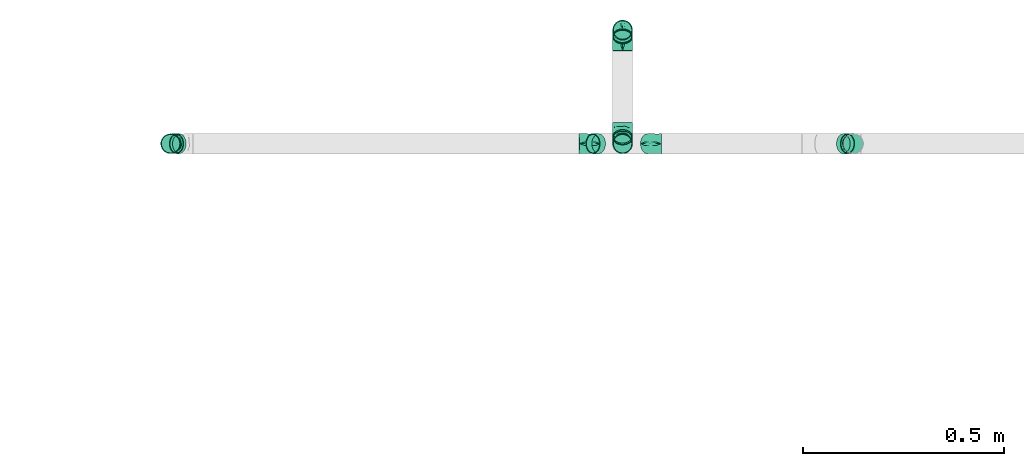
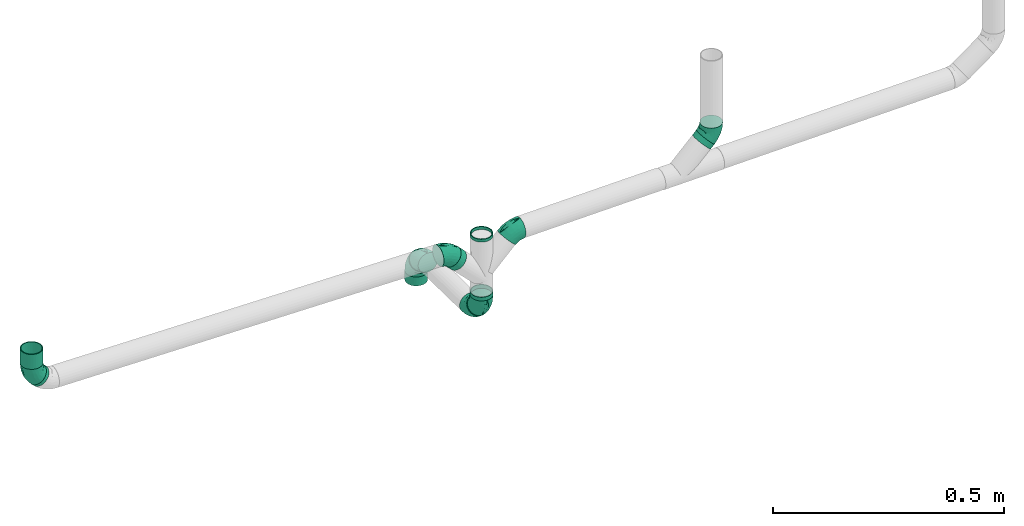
# One storey, part 6 of 13: 9 flow segments, 8 flow fittings.
"""IFC2X3 building model written with IfcOpenShell, lengths in millimetres."""

from ifc_helpers import new_model, entity, si_unit, converted_unit, derived_unit, direction, frame, origin_with_axes, origin_2d_with_axis, place, context, subcontext, project, spatial, hollow_circle, extrude, open_shell, surface_model, source, transform, mapped, type_object, element, save


model = new_model("IFC2X3")

# Units and contexts
model_context = context("Model", 3, precision=0.01, world=frame((0.0, 4.29681676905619e-09, 0.0)), true_north=direction((4.01073788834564e-13, 1.0)))
plan_context = context("Plan", 3, precision=0.01, world=frame((0.0, 4.29681676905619e-09, 0.0)), true_north=direction((4.01073788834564e-13, 1.0)))
body_context = subcontext(model_context, "Body", "Model", "MODEL_VIEW")
ifc_project = project(units=[converted_unit("PLANEANGLEUNIT", "DEGREE", entity("IfcPositiveLengthMeasure", 0.0174532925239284), si_unit("PLANEANGLEUNIT", "RADIAN"), dimensions=[0, 0, 0, 0, 0, 0, 0]), si_unit("AREAUNIT", "SQUARE_METRE"), si_unit("LENGTHUNIT", "METRE", prefix="MILLI"), si_unit("MASSUNIT", "GRAM", prefix="KILO"), si_unit("POWERUNIT", "WATT"), si_unit("PRESSUREUNIT", "PASCAL", prefix="KILO"), si_unit("FORCEUNIT", "NEWTON", prefix="KILO"), si_unit("ELECTRICVOLTAGEUNIT", "VOLT"), si_unit("ELECTRICCURRENTUNIT", "AMPERE"), si_unit("THERMODYNAMICTEMPERATUREUNIT", "DEGREE_CELSIUS"), si_unit("TIMEUNIT", "SECOND"), si_unit("VOLUMEUNIT", "CUBIC_METRE"), derived_unit("LINEARVELOCITYUNIT", [(si_unit("LENGTHUNIT", "METRE"), 1), (si_unit("TIMEUNIT", "SECOND"), -1)]), derived_unit("VOLUMETRICFLOWRATEUNIT", [(si_unit("VOLUMEUNIT", "CUBIC_METRE"), 1), (si_unit("TIMEUNIT", "SECOND"), -1)]), derived_unit("THERMALTRANSMITTANCEUNIT", [(si_unit("POWERUNIT", "WATT"), 1), (si_unit("THERMODYNAMICTEMPERATUREUNIT", "KELVIN"), -1), (si_unit("AREAUNIT", "SQUARE_METRE"), -1)]), derived_unit("SOUNDPRESSUREUNIT", [(si_unit("PRESSUREUNIT", "PASCAL"), 1)])], contexts=[model_context, plan_context])

# Site, building, storey
site_placement = place(None, frame((0.0, -4.29681676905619e-09, 0.0), z_axis=(0.0, 0.0, 1.0), x_axis=(1.0, 0.0, 0.0)))
site = spatial("IfcSite", under=ifc_project, at=site_placement, Name="ENGM", CompositionType="ELEMENT")
building_placement = place(site_placement, frame((0.0, 4.29681676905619e-09, 0.0), z_axis=(0.0, 0.0, 1.0), x_axis=(1.0, 0.0, 0.0)))
building = spatial("IfcBuilding", under=site, at=building_placement, Name="TI", CompositionType="ELEMENT")
storey_placement = place(building_placement, frame((0.0, 0.0, 210900.0), z_axis=(0.0, 0.0, 1.0), x_axis=(1.0, 0.0, 0.0)))
storey = spatial("IfcBuildingStorey", under=building, at=storey_placement, Name="Nivå F", CompositionType="ELEMENT", Elevation=210900.0)

# Flow fittings
pipe_fitting_type = type_object("IfcPipeFittingType", Name="magi_pipe_elbow_short_001", PredefinedType="BEND")
shared_shape_1 = source(origin_with_axes(), body_context, "Body", "SurfaceModel", [
    surface_model("IfcShellBasedSurfaceModel", [(-20.22424, 6.47048, -24.14815), (-20.22424, 0.0, -25.0), (-20.22424, 24.14815, -6.47048), (-20.22424, 12.5, -21.65064), (-20.22424, 21.65064, -12.5), (-20.22424, 17.67767, -17.67767), (-20.22424, -17.67767, -17.67767), (-20.22424, -12.5, -21.65064), (-20.22424, -6.47048, -24.14815), (-20.22424, -21.65064, -12.5), (-20.22424, -24.14815, -6.47048), (-20.22424, -12.5, 21.65064), (-20.22424, -25.0, 0.0), (-20.22424, -24.14815, 6.47048), (-20.22424, 24.14815, 6.47048), (-20.22424, 25.0, 0.0), (-20.22424, 6.47048, 24.14815), (-20.22424, 21.65064, 12.5), (-20.22424, 17.67767, 17.67767), (-20.22424, 12.5, 21.65064), (-20.22424, -21.65064, 12.5), (-20.22424, -17.67767, 17.67767), (-20.22424, -6.47048, 24.14815), (-20.22424, 0.0, 25.0), (14.53702, 14.0604, -25.0), (10.03858, 18.71132, -24.14815), (5.84671, 23.0453, -21.65064), (-0.51505, 29.6227, -12.5), (29.58908, -1.50191, -12.5), (2.24706, 26.76697, -17.67767), (31.32542, -3.2971, 6.47048), (19.03546, 9.40947, -24.14815), (26.82698, 1.35383, -17.67767), (23.22733, 5.0755, -21.65064), (31.91765, -3.90941, 0.0), (31.32542, -3.2971, -6.47048), (-2.25138, 31.41789, -6.47048), (5.84671, 23.0453, 21.65064), (-2.84361, 32.0302, 0.0), (-2.25138, 31.41789, 6.47048), (-0.51505, 29.6227, 12.5), (10.03858, 18.71132, 24.14815), (2.24706, 26.76697, 17.67767), (29.58908, -1.50191, 12.5), (23.22733, 5.0755, 21.65064), (26.82698, 1.35383, 17.67767), (19.03546, 9.40947, 24.14815), (14.53702, 14.0604, 25.0), (-9.69847, -9.19065, 22.86046), (-5.23761, -14.15187, 19.3094), (2.56471, -6.34069, 22.55877), (-7.62941, -19.11779, 14.65253), (18.77512, -8.43755, 14.65253), (-7.11247, -2.41653, 24.67279), (-9.19675, 10.40135, 23.36423), (-2.27927, 5.635, 24.90797), (-12.2662, 3.44991, 24.84556), (4.41807, 11.57749, 24.61789), (-4.22873, -21.66922, 8.71306), (6.2942, -15.56104, 13.98696), (13.36075, 0.13646, 22.86046), (-10.0272, 24.79005, 10.24171), (-10.55878, 20.97013, 15.76419), (-6.90158, 17.06265, 20.38655), (2.53121, -21.02858, 4.53817), (12.5538, -16.99605, 4.53817), (7.28086, -18.00033, 8.92555), (-6.16279, -22.26385, 0.0), (-6.66707, -23.33816, 4.55945), (20.74358, -12.3269, 4.53328), (18.10457, -12.63575, 8.71306), (-9.87338, 26.63546, 5.23705), (6.79242, 3.20779, 24.67279), (13.60349, -6.53093, 19.3094), (7.89866, -19.52771, 0.0), (0.91234, 14.87569, 23.32132), (19.90816, -11.71856, 0.0), (-10.84994, 26.8241, 0.0), (4.12544, -10.19925, 20.04685), (-7.11247, -2.41653, -24.67279), (12.80019, -16.87494, -4.53817), (2.79251, -20.94434, -4.53817), (7.28086, -18.00033, -8.92555), (6.79242, 3.20779, -24.67279), (-11.22464, 5.25025, -24.61789), (-6.9894, 22.41389, -15.76419), (13.60349, -6.53093, -19.3094), (-10.0272, 24.79005, -10.24171), (18.10457, -12.63575, -8.71306), (-11.42073, 26.00958, -5.23705), (-0.62073, 13.87022, -23.36423), (-6.34035, -23.28194, -4.53328), (-4.22873, -21.66922, -8.71306), (-10.99774, 10.05825, -23.32132), (-7.62941, -19.11779, -14.65253), (6.2942, -15.56104, -13.98696), (-5.23761, -14.15187, -19.3094), (4.12544, -10.19925, -20.04685), (-9.69847, -9.19065, -22.86046), (2.56471, -6.34069, -22.55877), (13.36075, 0.13646, -22.86046), (-2.27927, 5.635, -24.90797), (-6.90158, 17.06265, -20.38655), (21.01751, -12.14017, -4.55945), (6.41838, 11.00754, -24.84556), (18.77512, -8.43755, -14.65253)], [open_shell([[[0, 1, 2]], [[3, 0, 2]], [[2, 4, 5]], [[3, 2, 5]], [[6, 2, 1]], [[7, 6, 8]], [[6, 1, 8]], [[9, 10, 6]], [[11, 6, 10]], [[10, 12, 13]], [[2, 6, 11]], [[14, 15, 16]], [[17, 14, 18]], [[14, 16, 19]], [[18, 14, 19]], [[11, 16, 15]], [[20, 21, 13]], [[11, 13, 21]], [[10, 13, 11]], [[11, 22, 16]], [[22, 23, 16]], [[15, 2, 11]], [[24, 25, 26]], [[24, 26, 27]], [[24, 27, 28]], [[27, 26, 29]], [[27, 30, 28]], [[31, 32, 33]], [[32, 31, 28]], [[28, 34, 35]], [[28, 31, 24]], [[28, 30, 34]], [[27, 36, 30]], [[37, 38, 39]], [[37, 39, 40]], [[37, 41, 38]], [[37, 40, 42]], [[38, 41, 30]], [[43, 44, 45]], [[44, 43, 30]], [[30, 46, 44]], [[30, 41, 46]], [[41, 47, 46]], [[38, 30, 36]], [[48, 49, 50]], [[20, 51, 21]], [[11, 21, 49]], [[43, 45, 52]], [[23, 22, 53]], [[22, 11, 48]], [[19, 16, 54]], [[55, 56, 53]], [[23, 56, 16]], [[41, 57, 47]], [[58, 59, 51]], [[44, 46, 60]], [[61, 17, 62]], [[63, 18, 19]], [[64, 65, 66]], [[67, 64, 68]], [[69, 70, 65]], [[61, 71, 14]], [[20, 13, 58]], [[15, 14, 71]], [[14, 17, 61]], [[51, 49, 21]], [[54, 63, 19]], [[58, 66, 59]], [[12, 67, 68]], [[37, 42, 63]], [[47, 57, 72]], [[45, 44, 73]], [[40, 39, 61]], [[72, 46, 47]], [[64, 67, 74]], [[70, 43, 52]], [[75, 57, 41]], [[73, 44, 60]], [[58, 51, 20]], [[76, 69, 65]], [[30, 69, 34]], [[56, 54, 16]], [[71, 61, 39]], [[77, 71, 38]], [[52, 73, 59]], [[49, 78, 50]], [[50, 72, 53]], [[41, 37, 75]], [[50, 60, 72]], [[61, 62, 40]], [[55, 53, 72]], [[42, 40, 62]], [[63, 54, 75]], [[48, 53, 22]], [[17, 18, 62]], [[30, 43, 70]], [[49, 51, 59]], [[78, 59, 73]], [[73, 52, 45]], [[70, 52, 59]], [[18, 63, 62]], [[42, 62, 63]], [[63, 75, 37]], [[55, 75, 54]], [[49, 48, 11]], [[53, 48, 50]], [[72, 60, 46]], [[73, 60, 50]], [[75, 55, 57]], [[57, 55, 72]], [[53, 56, 23]], [[54, 56, 55]], [[64, 66, 58]], [[70, 59, 66]], [[64, 58, 68]], [[65, 64, 74]], [[76, 65, 74]], [[70, 66, 65]], [[58, 13, 68]], [[12, 68, 13]], [[34, 69, 76]], [[30, 70, 69]], [[59, 78, 49]], [[73, 50, 78]], [[38, 71, 39]], [[71, 77, 15]], [[8, 1, 79]], [[80, 81, 82]], [[24, 31, 83]], [[84, 1, 0]], [[4, 85, 5]], [[33, 32, 86]], [[87, 85, 4]], [[28, 35, 88]], [[2, 89, 87]], [[26, 25, 90]], [[91, 92, 81]], [[3, 93, 0]], [[67, 91, 81]], [[92, 94, 95]], [[10, 91, 12]], [[94, 92, 9]], [[6, 7, 96]], [[97, 95, 96]], [[10, 9, 92]], [[6, 94, 9]], [[98, 7, 8]], [[94, 96, 95]], [[99, 79, 83]], [[100, 83, 31]], [[15, 77, 89]], [[80, 76, 74]], [[38, 36, 89]], [[101, 83, 79]], [[29, 26, 102]], [[87, 4, 2]], [[27, 85, 87]], [[98, 96, 7]], [[90, 102, 26]], [[84, 79, 1]], [[102, 90, 93]], [[5, 102, 3]], [[76, 80, 103]], [[24, 104, 25]], [[100, 31, 33]], [[88, 82, 95]], [[105, 86, 32]], [[86, 99, 100]], [[88, 95, 105]], [[99, 98, 79]], [[34, 76, 103]], [[27, 29, 85]], [[104, 90, 25]], [[105, 32, 28]], [[86, 97, 99]], [[104, 83, 101]], [[93, 84, 0]], [[36, 87, 89]], [[96, 94, 6]], [[36, 27, 87]], [[88, 105, 28]], [[86, 105, 95]], [[29, 102, 85]], [[5, 85, 102]], [[102, 93, 3]], [[101, 93, 90]], [[79, 98, 8]], [[96, 98, 99]], [[86, 100, 33]], [[83, 100, 99]], [[93, 101, 84]], [[84, 101, 79]], [[83, 104, 24]], [[90, 104, 101]], [[80, 82, 88]], [[92, 95, 82]], [[80, 88, 103]], [[81, 80, 74]], [[67, 81, 74]], [[92, 82, 81]], [[88, 35, 103]], [[34, 103, 35]], [[12, 91, 67]], [[10, 92, 91]], [[95, 97, 86]], [[96, 99, 97]], [[15, 89, 2]], [[89, 77, 38]]])]),
])
for number, where, z_axis, x_axis, name in (
    (1, (588584.84459, 576282.62891, 93.7055500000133), (1.0, 0.0, 0.0), (0.0, -0.707106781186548, 0.707106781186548), "magi_pipe_elbow_short_001"),
    (2, (588584.84459, 576062.75184, 97.3701700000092), (-1.0, 0.0, 0.0), (0.0, -0.999861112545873, 0.0166660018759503), "magi_pipe_elbow_short_001"),
    (3, (588496.76728, 576030.74709, 290.665340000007), (0.0, -1.0, 0.0), (-0.707106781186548, 0.0, 0.707106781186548), "magi_pipe_elbow_short_001"),
    (4, (588661.46468, 576030.74709, 293.318969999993), (0.0, 1.0, 0.0), (0.707106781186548, 0.0, 0.707106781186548), "magi_pipe_elbow_short_001"),
):
    element("IfcFlowFitting", number, at=place(storey_placement, frame(where, z_axis=z_axis, x_axis=x_axis)), inside=storey, type_object=pipe_fitting_type, Name=name, context=body_context, shape_type="MappedRepresentation", body=[
        mapped(shared_shape_1, transform((0.0, 0.0, 0.0), scale=1.0)),
    ])
shared_shape_2 = source(origin_with_axes(), body_context, "Body", "SurfaceModel", [
    surface_model("IfcShellBasedSurfaceModel", [(-20.71068, 6.47048, -24.14815), (-20.71068, 0.0, -25.0), (-20.71068, 24.14815, -6.47048), (-20.71068, 12.5, -21.65064), (-20.71068, 21.65064, -12.5), (-20.71068, 17.67767, -17.67767), (-20.71068, -17.67767, -17.67767), (-20.71068, -12.5, -21.65064), (-20.71068, -6.47048, -24.14815), (-20.71068, -21.65064, -12.5), (-20.71068, -24.14815, -6.47048), (-20.71068, -12.5, 21.65064), (-20.71068, -25.0, 0.0), (-20.71068, -24.14815, 6.47048), (-20.71068, 24.14815, 6.47048), (-20.71068, 25.0, 0.0), (-20.71068, 6.47048, 24.14815), (-20.71068, 21.65064, 12.5), (-20.71068, 17.67767, 17.67767), (-20.71068, 12.5, 21.65064), (-20.71068, -21.65064, 12.5), (-20.71068, -17.67767, 17.67767), (-20.71068, -6.47048, 24.14815), (-20.71068, 0.0, 25.0), (14.64466, 14.64466, -25.0), (10.06934, 19.21998, -24.14815), (5.80583, 23.4835, -21.65064), (-0.66465, 29.95397, -12.5), (27.14466, 2.14466, -17.67767), (2.14466, 27.14466, -17.67767), (31.71998, -2.43066, 6.47048), (31.71998, -2.43066, -6.47048), (19.21998, 10.06934, -24.14815), (23.4835, 5.80583, -21.65064), (29.95397, -0.66465, -12.5), (32.32233, -3.03301, 0.0), (-2.43066, 31.71998, -6.47048), (-3.03301, 32.32233, 0.0), (-2.43066, 31.71998, 6.47048), (-0.66465, 29.95397, 12.5), (5.80583, 23.4835, 21.65064), (10.06934, 19.21998, 24.14815), (2.14466, 27.14466, 17.67767), (23.4835, 5.80583, 21.65064), (27.14466, 2.14466, 17.67767), (29.95397, -0.66465, 12.5), (19.21998, 10.06934, 24.14815), (14.64466, 14.64466, 25.0), (-9.90594, -9.16729, 22.84872), (-5.53086, -14.12942, 19.29098), (2.56694, -6.19714, 22.53372), (-8.0728, -19.12027, 14.63846), (19.2284, -7.81174, 14.63846), (-7.46138, -2.40706, 24.66879), (-9.60579, 10.40318, 23.37148), (-2.37784, 5.74061, 24.91215), (-12.52615, 3.46428, 24.84829), (0.74206, 15.02947, 23.33394), (4.51942, 11.83388, 24.63638), (6.36735, -15.37213, 13.93174), (13.48681, 0.5223, 22.84872), (-10.29888, 24.86369, 10.27108), (-11.02493, 20.96619, 15.77668), (-7.1013, 17.14405, 20.41013), (2.15218, -21.0168, 4.41941), (11.42886, -17.32864, 4.41941), (7.39264, -17.84741, 8.69962), (-6.36005, -22.14548, 0.0), (-7.04491, -23.31893, 4.55451), (24.09339, -9.5634, 4.80838), (18.46353, -12.1242, 8.68186), (-10.01361, 26.7882, 5.2528), (-4.48258, -21.62879, 8.68186), (6.97804, 3.57394, 24.66879), (13.90192, -6.0801, 19.29098), (7.99058, -19.29096, 0.0), (20.15645, -11.16199, 0.0), (-11.14359, 26.90301, 0.0), (4.1962, -10.13052, 19.93611), (-7.46138, -2.40706, -24.66879), (13.33931, -16.38294, -4.41941), (4.17178, -20.33463, -4.41941), (7.39264, -17.84741, -8.69961), (6.97804, 3.57394, -24.66879), (-11.15216, 10.10272, -23.33394), (-11.56353, 5.1721, -24.63638), (-7.02953, 22.62114, -15.77668), (13.90192, -6.0801, -19.29098), (-10.29888, 24.86369, -10.27108), (18.46353, -12.1242, -8.68186), (-11.86143, 26.02281, -5.2528), (-0.56384, 14.14848, -23.37148), (-10.27426, -23.79894, -4.80838), (-4.48258, -21.62879, -8.68186), (6.36735, -15.37213, -13.93174), (19.2284, -7.81174, -14.63846), (-8.0728, -19.12027, -14.63846), (-5.53086, -14.12942, -19.29098), (4.1962, -10.13052, -19.93611), (-9.90594, -9.16729, -22.84872), (2.56694, -6.19714, -22.53372), (13.48681, 0.5223, -22.84872), (-2.37784, 5.74061, -24.91215), (-7.1013, 17.14405, -20.41013), (21.47048, -11.50747, -4.55451), (6.40771, 11.30694, -24.84829)], [open_shell([[[0, 1, 2]], [[3, 0, 2]], [[2, 4, 5]], [[3, 2, 5]], [[6, 2, 1]], [[7, 6, 8]], [[6, 1, 8]], [[9, 10, 6]], [[11, 6, 10]], [[10, 12, 13]], [[2, 6, 11]], [[14, 15, 16]], [[17, 14, 18]], [[14, 16, 19]], [[18, 14, 19]], [[11, 16, 15]], [[20, 21, 13]], [[11, 13, 21]], [[10, 13, 11]], [[11, 22, 16]], [[22, 23, 16]], [[15, 2, 11]], [[24, 25, 26]], [[24, 26, 27]], [[24, 27, 28]], [[27, 26, 29]], [[30, 31, 27]], [[32, 28, 33]], [[32, 24, 28]], [[28, 31, 34]], [[27, 31, 28]], [[31, 30, 35]], [[30, 27, 36]], [[37, 38, 39]], [[30, 37, 39]], [[40, 41, 39]], [[40, 39, 42]], [[43, 39, 41]], [[30, 44, 45]], [[44, 30, 43]], [[41, 46, 43]], [[43, 30, 39]], [[47, 46, 41]], [[37, 30, 36]], [[48, 49, 50]], [[21, 51, 49]], [[11, 21, 49]], [[45, 44, 52]], [[23, 22, 53]], [[22, 11, 48]], [[19, 16, 54]], [[55, 56, 53]], [[23, 56, 16]], [[41, 57, 58]], [[49, 51, 59]], [[43, 46, 60]], [[61, 17, 62]], [[63, 18, 19]], [[64, 65, 66]], [[67, 64, 68]], [[69, 30, 70]], [[61, 71, 14]], [[20, 13, 72]], [[15, 14, 71]], [[14, 17, 61]], [[21, 20, 51]], [[54, 63, 19]], [[72, 66, 59]], [[12, 67, 68]], [[40, 42, 63]], [[47, 58, 73]], [[44, 43, 74]], [[39, 38, 61]], [[73, 46, 47]], [[64, 67, 75]], [[44, 74, 52]], [[55, 58, 57]], [[74, 43, 60]], [[20, 72, 51]], [[76, 69, 65]], [[30, 69, 35]], [[56, 54, 16]], [[71, 61, 38]], [[77, 71, 37]], [[52, 59, 70]], [[49, 78, 50]], [[50, 73, 53]], [[41, 40, 57]], [[50, 60, 73]], [[61, 62, 39]], [[55, 53, 73]], [[42, 39, 62]], [[63, 54, 57]], [[48, 53, 22]], [[17, 18, 62]], [[30, 45, 70]], [[59, 51, 72]], [[78, 59, 74]], [[59, 52, 74]], [[70, 45, 52]], [[18, 63, 62]], [[42, 62, 63]], [[63, 57, 40]], [[55, 57, 54]], [[49, 48, 11]], [[53, 48, 50]], [[73, 60, 46]], [[74, 60, 50]], [[73, 58, 55]], [[47, 41, 58]], [[53, 56, 23]], [[54, 56, 55]], [[64, 66, 72]], [[70, 59, 66]], [[64, 72, 68]], [[65, 64, 75]], [[76, 65, 75]], [[70, 66, 65]], [[72, 13, 68]], [[12, 68, 13]], [[59, 78, 49]], [[74, 50, 78]], [[37, 71, 38]], [[71, 77, 15]], [[65, 69, 70]], [[35, 69, 76]], [[8, 1, 79]], [[80, 81, 82]], [[24, 32, 83]], [[84, 85, 0]], [[4, 86, 5]], [[33, 28, 87]], [[88, 86, 4]], [[34, 31, 89]], [[2, 90, 88]], [[26, 25, 91]], [[92, 10, 93]], [[3, 84, 0]], [[67, 92, 81]], [[94, 95, 89]], [[10, 92, 12]], [[96, 6, 97]], [[6, 7, 97]], [[98, 94, 97]], [[10, 9, 93]], [[6, 96, 9]], [[99, 7, 8]], [[96, 94, 93]], [[100, 79, 83]], [[101, 83, 32]], [[15, 77, 90]], [[80, 76, 75]], [[37, 36, 90]], [[102, 83, 79]], [[29, 26, 103]], [[88, 4, 2]], [[27, 86, 88]], [[99, 97, 7]], [[91, 103, 26]], [[85, 79, 1]], [[103, 91, 84]], [[5, 103, 3]], [[76, 80, 104]], [[24, 105, 25]], [[101, 32, 33]], [[89, 82, 94]], [[28, 34, 95]], [[87, 100, 101]], [[87, 95, 94]], [[100, 99, 79]], [[35, 76, 104]], [[27, 29, 86]], [[105, 91, 25]], [[95, 87, 28]], [[87, 98, 100]], [[105, 83, 102]], [[102, 85, 84]], [[36, 88, 90]], [[34, 89, 95]], [[36, 27, 88]], [[94, 96, 97]], [[93, 9, 96]], [[29, 103, 86]], [[5, 86, 103]], [[103, 84, 3]], [[102, 84, 91]], [[79, 99, 8]], [[97, 99, 100]], [[87, 101, 33]], [[83, 101, 100]], [[79, 85, 102]], [[1, 0, 85]], [[83, 105, 24]], [[91, 105, 102]], [[80, 82, 89]], [[93, 94, 82]], [[80, 89, 104]], [[81, 80, 75]], [[67, 81, 75]], [[93, 82, 81]], [[89, 31, 104]], [[35, 104, 31]], [[94, 98, 87]], [[97, 100, 98]], [[15, 90, 2]], [[90, 77, 37]], [[81, 92, 93]], [[12, 92, 67]]])]),
])
for number, where, z_axis, x_axis, name in (
    (5, (587458.89112, 576030.74709, 342.641670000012), (0.0, 1.0, 0.0), (-0.707106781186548, 0.0, 0.707106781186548), "magi_pipe_elbow_short_001"),
    (6, (588584.84459, 576313.94619, 62.3882699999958), (1.0, 0.0, 0.0), (0.0, 0.0, 1.0), "magi_pipe_elbow_short_001"),
    (7, (588584.84459, 576030.74709, 129.374910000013), (-1.0, 0.0, 0.0), (0.0, -0.707106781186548, 0.707106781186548), "magi_pipe_elbow_short_001"),
    (8, (589159.77905, 576030.74709, 385.050170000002), (0.0, 1.0, 0.0), (0.0, 0.0, -1.0), "magi_pipe_elbow_short_001"),
):
    element("IfcFlowFitting", number, at=place(storey_placement, frame(where, z_axis=z_axis, x_axis=x_axis)), inside=storey, type_object=pipe_fitting_type, Name=name, context=body_context, shape_type="MappedRepresentation", body=[
        mapped(shared_shape_2, transform((0.0, 0.0, 0.0), scale=1.0)),
    ])

# Flow segments
pipe_segment_type = type_object("IfcPipeSegmentType", Name="PP avløpsrør", PredefinedType="RIGIDSEGMENT")
shared_shape_3 = source(origin_with_axes(), body_context, "Body", "SweptSolid", [
    extrude(hollow_circle(Radius=25.0, WallThickness=2.0, at=origin_2d_with_axis()), frame((0.0, 0.0, 0.0), z_axis=(1.0, 0.0, 0.0), x_axis=(0.0, 1.0, 0.0)), (0.0, 0.0, 1.0), 8.9),
])
flow_segment_1_placement = place(storey_placement, frame((587479.85659, 576030.74709, 321.676199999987), z_axis=(0.707106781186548, 0.0, 0.707106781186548), x_axis=(-0.707106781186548, 0.0, 0.707106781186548)))
element("IfcFlowSegment", 9, at=flow_segment_1_placement, inside=storey, type_object=pipe_segment_type, Name="PP avløpsrør", context=body_context, shape_type="MappedRepresentation", body=[
    mapped(shared_shape_3, transform((0.0, 0.0, 0.0), scale=1.0)),
])
shared_shape_4 = source(origin_with_axes(), body_context, "Body", "SweptSolid", [
    extrude(hollow_circle(Radius=25.0, WallThickness=2.0, at=origin_2d_with_axis()), frame((0.0, 0.0, 0.0), z_axis=(1.0, 0.0, 0.0), x_axis=(0.0, 1.0, 0.0)), (0.0, 0.0, 1.0), 39.3),
])
flow_segment_2_placement = place(storey_placement, frame((587458.89112, 576030.74709, 363.352350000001), z_axis=(0.0, 1.0, 0.0), x_axis=(0.0, 0.0, 1.0)))
element("IfcFlowSegment", 10, at=flow_segment_2_placement, inside=storey, type_object=pipe_segment_type, Name="PP avløpsrør", context=body_context, shape_type="MappedRepresentation", body=[
    mapped(shared_shape_4, transform((0.0, 0.0, 0.0), scale=1.0)),
])
shared_shape_5 = source(origin_with_axes(), body_context, "Body", "SweptSolid", [
    extrude(hollow_circle(Radius=25.0, WallThickness=2.0, at=origin_2d_with_axis()), frame((0.0, 0.0, 0.0), z_axis=(1.0, 0.0, 0.0), x_axis=(0.0, 1.0, 0.0)), (0.0, 0.0, 1.0), 23.4),
])
flow_segment_3_placement = place(storey_placement, frame((588584.84459, 576313.94619, 18.2865499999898), z_axis=(1.0, 0.0, 0.0), x_axis=(0.0, 0.0, 1.0)))
element("IfcFlowSegment", 11, at=flow_segment_3_placement, inside=storey, type_object=pipe_segment_type, Name="PP avløpsrør", context=body_context, shape_type="MappedRepresentation", body=[
    mapped(shared_shape_5, transform((0.0, 0.0, 0.0), scale=1.0)),
])
shared_shape_6 = source(origin_with_axes(), body_context, "Body", "SweptSolid", [
    extrude(hollow_circle(Radius=25.0, WallThickness=2.0, at=origin_2d_with_axis()), frame((0.0, 0.0, 0.0), z_axis=(1.0, 0.0, 0.0), x_axis=(0.0, 1.0, 0.0)), (0.0, 0.0, 1.0), 3.4),
])
flow_segment_4_placement = place(storey_placement, frame((588584.84459, 576299.30153, 77.0329299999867), z_axis=(0.0, 0.707106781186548, 0.707106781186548), x_axis=(0.0, -0.707106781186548, 0.707106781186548)))
element("IfcFlowSegment", 12, at=flow_segment_4_placement, inside=storey, type_object=pipe_segment_type, Name="PP avløpsrør", context=body_context, shape_type="MappedRepresentation", body=[
    mapped(shared_shape_6, transform((0.0, 0.0, 0.0), scale=1.0)),
])
shared_shape_7 = source(origin_with_axes(), body_context, "Body", "SweptSolid", [
    extrude(hollow_circle(Radius=25.0, WallThickness=2.0, at=origin_2d_with_axis()), frame((0.0, 0.0, 0.0), z_axis=(1.0, 0.0, 0.0), x_axis=(0.0, 1.0, 0.0)), (0.0, 0.0, 1.0), 4.3),
])
flow_segment_5_placement = place(storey_placement, frame((588584.84459, 576045.39176, 114.730249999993), z_axis=(0.0, 0.707106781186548, 0.707106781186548), x_axis=(0.0, 0.707106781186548, -0.707106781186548)))
element("IfcFlowSegment", 13, at=flow_segment_5_placement, inside=storey, type_object=pipe_segment_type, Name="PP avløpsrør", context=body_context, shape_type="MappedRepresentation", body=[
    mapped(shared_shape_7, transform((0.0, 0.0, 0.0), scale=1.0)),
])
shared_shape_8 = source(origin_with_axes(), body_context, "Body", "SweptSolid", [
    extrude(hollow_circle(Radius=25.0, WallThickness=2.0, at=origin_2d_with_axis()), frame((0.0, 0.0, 0.0), z_axis=(1.0, 0.0, 0.0), x_axis=(0.0, 1.0, 0.0)), (0.0, 0.0, 1.0), 9.8),
])
flow_segment_6_placement = place(storey_placement, frame((588584.84459, 576030.74709, 150.085590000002), z_axis=(0.0, -1.0, 0.0), x_axis=(0.0, 0.0, 1.0)))
element("IfcFlowSegment", 14, at=flow_segment_6_placement, inside=storey, type_object=pipe_segment_type, Name="PP avløpsrør", context=body_context, shape_type="MappedRepresentation", body=[
    mapped(shared_shape_8, transform((0.0, 0.0, 0.0), scale=1.0)),
])
shared_shape_9 = source(origin_with_axes(), body_context, "Body", "SweptSolid", [
    extrude(hollow_circle(Radius=25.0, WallThickness=2.0, at=origin_2d_with_axis()), frame((0.0, 0.0, 0.0), z_axis=(1.0, 0.0, 0.0), x_axis=(0.0, 1.0, 0.0)), (0.0, 0.0, 1.0), 13.7),
])
flow_segment_7_placement = place(storey_placement, frame((589145.13439, 576030.74709, 370.405510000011), z_axis=(-0.707106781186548, 0.0, 0.707106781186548), x_axis=(-0.707106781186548, 0.0, -0.707106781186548)))
element("IfcFlowSegment", 15, at=flow_segment_7_placement, inside=storey, type_object=pipe_segment_type, Name="PP avløpsrør", context=body_context, shape_type="MappedRepresentation", body=[
    mapped(shared_shape_9, transform((0.0, 0.0, 0.0), scale=1.0)),
])
shared_shape_10 = source(origin_with_axes(), body_context, "Body", "SweptSolid", [
    extrude(hollow_circle(Radius=25.0, WallThickness=2.0, at=origin_2d_with_axis()), frame((0.0, 0.0, 0.0), z_axis=(1.0, 0.0, 0.0), x_axis=(0.0, 1.0, 0.0)), (0.0, 0.0, 1.0), 19.0),
])
flow_segment_8_placement = place(storey_placement, frame((588511.06798, 576030.74709, 276.364650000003), z_axis=(0.707106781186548, 0.0, 0.707106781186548), x_axis=(0.707106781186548, 0.0, -0.707106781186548)))
element("IfcFlowSegment", 16, at=flow_segment_8_placement, inside=storey, type_object=pipe_segment_type, Name="PP avløpsrør", context=body_context, shape_type="MappedRepresentation", body=[
    mapped(shared_shape_10, transform((0.0, 0.0, 0.0), scale=1.0)),
])
shared_shape_11 = source(origin_with_axes(), body_context, "Body", "SweptSolid", [
    extrude(hollow_circle(Radius=25.0, WallThickness=2.0, at=origin_2d_with_axis()), frame((0.0, 0.0, 0.0), z_axis=(1.0, 0.0, 0.0), x_axis=(0.0, 1.0, 0.0)), (0.0, 0.0, 1.0), 7.7),
])
flow_segment_9_placement = place(storey_placement, frame((588584.84459, 576030.74709, 305.621049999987), z_axis=(0.0, 1.0, 0.0), x_axis=(0.0, 0.0, 1.0)))
element("IfcFlowSegment", 17, at=flow_segment_9_placement, inside=storey, type_object=pipe_segment_type, Name="PP avløpsrør", context=body_context, shape_type="MappedRepresentation", body=[
    mapped(shared_shape_11, transform((0.0, 0.0, 0.0), scale=1.0)),
])

save(model, "model.ifc")
